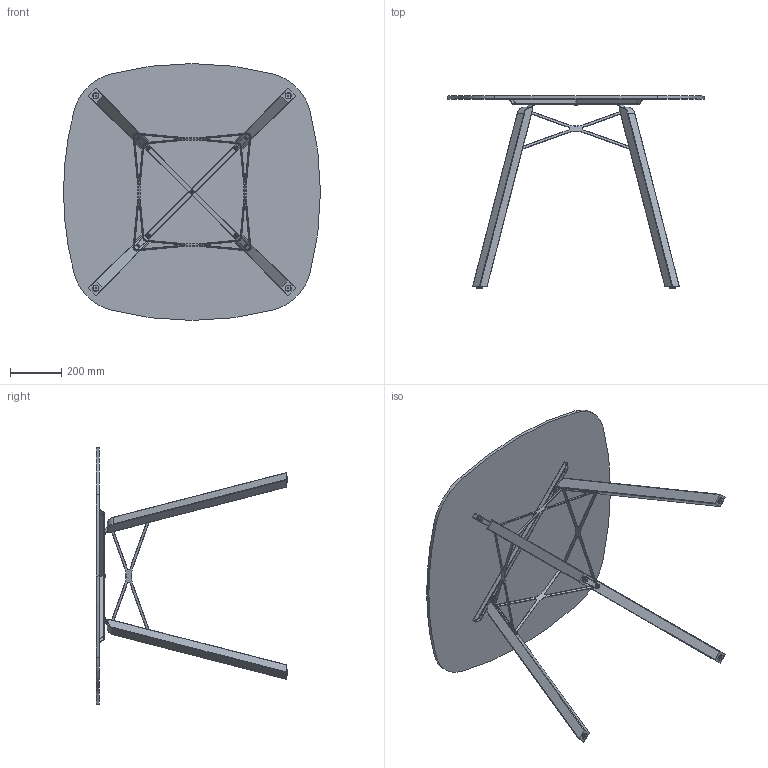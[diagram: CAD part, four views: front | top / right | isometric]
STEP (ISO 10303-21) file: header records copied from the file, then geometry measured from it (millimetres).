
FILE_DESCRIPTION (( 'STEP AP203' ), '1' );
FILE_NAME ('M montaj kare masa iroko.STEP', '2014-07-17T10:55:17', ( '' ), ( '' ), 'SwSTEP 2.0', 'SolidWorks 2011', '' );
FILE_SCHEMA (( 'CONFIG_CONTROL_DESIGN' ));
Length unit declared in the file: millimetre
Products named in the file (10): M montaj kare masa iroko; 1000x1000 karelaj; vida10; vida; iroko masa ayaðý; M profil kare 2; M profil kare 1; M ara sac; M kulak; M tapa
Assembly tree (36 placements, depth 2):
  M montaj kare masa iroko
    vida  x12
    M tapa  x4
    iroko masa ayaðý  x4
    vida10  x5
    M profil kare 1
    M kulak  x4
    M ara sac  x4
    M profil kare 2
    1000x1000 karelaj
Bounding box: 1000 x 747.46 x 1000 mm (x, y, z)
Volume: 15608443.6 mm3; surface area: 2645196 mm2
Topology: 36 solids, 36 shells, 1029 faces, 2561 edges, 1642 vertices
Faces by surface type: plane 514, cylinder 416, torus 50, cone 32, sphere 17
Entity records: 12300 total; most frequent: DIRECTION 1960, CARTESIAN_POINT 1813, ORIENTED_EDGE 1728, EDGE_CURVE 864, AXIS2_PLACEMENT_3D 727, VERTEX_POINT 556, VECTOR 506, LINE 506
